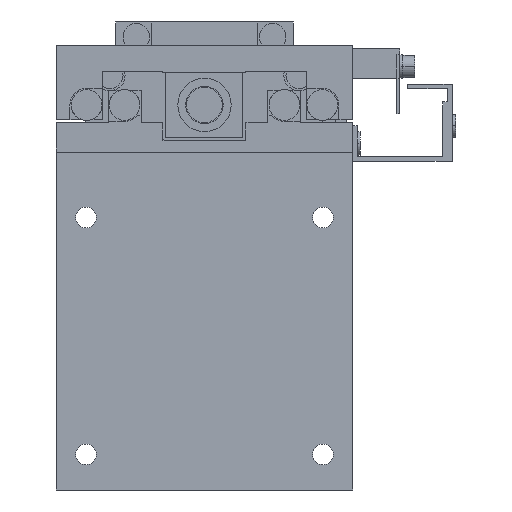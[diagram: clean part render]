
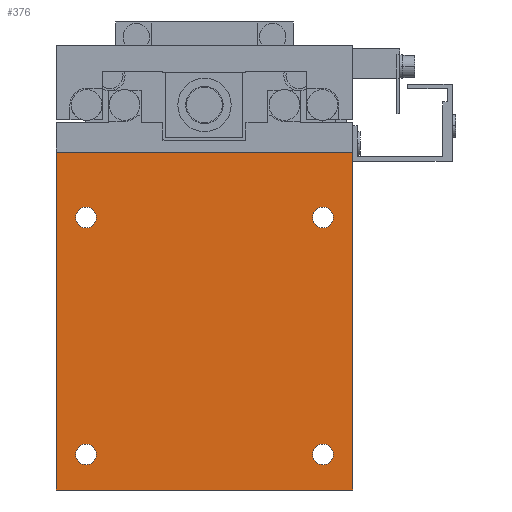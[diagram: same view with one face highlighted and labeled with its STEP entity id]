
A CAD part, front view. The second image highlights one B-rep face of the part: STEP entity #376.
In plain terms, the highlighted planar face has unit normal (0, -1, 0).
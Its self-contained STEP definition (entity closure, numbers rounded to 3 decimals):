
#376=ADVANCED_FACE('',(#1054,#1055,#1056,#1057,#1058),#1059,.F.);
#1054=FACE_BOUND('',#2484,.T.);
#1055=FACE_BOUND('',#2485,.T.);
#1056=FACE_BOUND('',#2486,.T.);
#1057=FACE_BOUND('',#2487,.T.);
#1058=FACE_OUTER_BOUND('',#2488,.T.);
#1059=PLANE('',#2489);
#2484=EDGE_LOOP('',(#3979,#3980));
#2485=EDGE_LOOP('',(#3981,#3982));
#2486=EDGE_LOOP('',(#3983,#3984));
#2487=EDGE_LOOP('',(#3985,#3986));
#2488=EDGE_LOOP('',(#3987,#3988,#3989,#3990));
#2489=AXIS2_PLACEMENT_3D('',#3991,#3992,#3993);
#3979=ORIENTED_EDGE('',*,*,#9296,.F.);
#3980=ORIENTED_EDGE('',*,*,#9247,.F.);
#3981=ORIENTED_EDGE('',*,*,#9297,.F.);
#3982=ORIENTED_EDGE('',*,*,#9279,.F.);
#3983=ORIENTED_EDGE('',*,*,#9298,.F.);
#3984=ORIENTED_EDGE('',*,*,#9287,.F.);
#3985=ORIENTED_EDGE('',*,*,#9299,.F.);
#3986=ORIENTED_EDGE('',*,*,#9283,.F.);
#3987=ORIENTED_EDGE('',*,*,#9300,.T.);
#3988=ORIENTED_EDGE('',*,*,#9301,.F.);
#3989=ORIENTED_EDGE('',*,*,#9302,.F.);
#3990=ORIENTED_EDGE('',*,*,#9293,.T.);
#3991=CARTESIAN_POINT('',(-25.0,0.0,-26.5));
#3992=DIRECTION('',(0.0,1.0,0.0));
#3993=DIRECTION('',(-1.0,0.0,0.0));
#9247=EDGE_CURVE('',#10931,#10927,#10933,.T.);
#9279=EDGE_CURVE('',#10995,#10991,#10997,.T.);
#9283=EDGE_CURVE('',#11003,#10999,#11005,.T.);
#9287=EDGE_CURVE('',#11011,#11007,#11013,.T.);
#9293=EDGE_CURVE('',#11025,#11023,#11026,.T.);
#9296=EDGE_CURVE('',#10927,#10931,#11030,.T.);
#9297=EDGE_CURVE('',#10991,#10995,#11031,.T.);
#9298=EDGE_CURVE('',#11007,#11011,#11032,.T.);
#9299=EDGE_CURVE('',#10999,#11003,#11033,.T.);
#9300=EDGE_CURVE('',#11023,#11034,#11035,.T.);
#9301=EDGE_CURVE('',#11036,#11034,#11037,.T.);
#9302=EDGE_CURVE('',#11025,#11036,#11038,.T.);
#10927=VERTEX_POINT('',#13677);
#10931=VERTEX_POINT('',#13682);
#10933=CIRCLE('',#13685,1.75);
#10991=VERTEX_POINT('',#13757);
#10995=VERTEX_POINT('',#13762);
#10997=CIRCLE('',#13765,1.75);
#10999=VERTEX_POINT('',#13767);
#11003=VERTEX_POINT('',#13772);
#11005=CIRCLE('',#13775,1.75);
#11007=VERTEX_POINT('',#13777);
#11011=VERTEX_POINT('',#13782);
#11013=CIRCLE('',#13785,1.75);
#11023=VERTEX_POINT('',#13797);
#11025=VERTEX_POINT('',#13800);
#11026=LINE('',#13801,#13802);
#11030=CIRCLE('',#13808,1.75);
#11031=CIRCLE('',#13809,1.75);
#11032=CIRCLE('',#13810,1.75);
#11033=CIRCLE('',#13811,1.75);
#11034=VERTEX_POINT('',#13812);
#11035=LINE('',#13813,#13814);
#11036=VERTEX_POINT('',#13815);
#11037=LINE('',#13816,#13817);
#11038=LINE('',#13818,#13819);
#13677=CARTESIAN_POINT('',(20.0,0.0,21.25));
#13682=CARTESIAN_POINT('',(20.0,0.0,17.75));
#13685=AXIS2_PLACEMENT_3D('',#17887,#17888,#17889);
#13757=CARTESIAN_POINT('',(-20.0,0.0,-18.75));
#13762=CARTESIAN_POINT('',(-20.0,0.0,-22.25));
#13765=AXIS2_PLACEMENT_3D('',#17951,#17952,#17953);
#13767=CARTESIAN_POINT('',(-20.0,0.0,21.25));
#13772=CARTESIAN_POINT('',(-20.0,0.0,17.75));
#13775=AXIS2_PLACEMENT_3D('',#17959,#17960,#17961);
#13777=CARTESIAN_POINT('',(20.0,0.0,-18.75));
#13782=CARTESIAN_POINT('',(20.0,0.0,-22.25));
#13785=AXIS2_PLACEMENT_3D('',#17967,#17968,#17969);
#13797=CARTESIAN_POINT('',(25.0,0.0,-26.5));
#13800=CARTESIAN_POINT('',(-25.0,0.0,-26.5));
#13801=CARTESIAN_POINT('',(-25.0,0.0,-26.5));
#13802=VECTOR('',#17979,1000.0);
#13808=AXIS2_PLACEMENT_3D('',#17982,#17983,#17984);
#13809=AXIS2_PLACEMENT_3D('',#17985,#17986,#17987);
#13810=AXIS2_PLACEMENT_3D('',#17988,#17989,#17990);
#13811=AXIS2_PLACEMENT_3D('',#17991,#17992,#17993);
#13812=CARTESIAN_POINT('',(25.0,0.0,30.5));
#13813=CARTESIAN_POINT('',(25.0,0.0,-26.5));
#13814=VECTOR('',#17994,1000.0);
#13815=CARTESIAN_POINT('',(-25.0,0.0,30.5));
#13816=CARTESIAN_POINT('',(-25.0,0.0,30.5));
#13817=VECTOR('',#17995,1000.0);
#13818=CARTESIAN_POINT('',(-25.0,0.0,-26.5));
#13819=VECTOR('',#17996,1000.0);
#17887=CARTESIAN_POINT('',(20.0,0.0,19.5));
#17888=DIRECTION('',(0.0,-1.0,0.0));
#17889=DIRECTION('',(0.0,0.0,1.0));
#17951=CARTESIAN_POINT('',(-20.0,0.0,-20.5));
#17952=DIRECTION('',(0.0,-1.0,0.0));
#17953=DIRECTION('',(0.0,0.0,1.0));
#17959=CARTESIAN_POINT('',(-20.0,0.0,19.5));
#17960=DIRECTION('',(0.0,-1.0,0.0));
#17961=DIRECTION('',(0.0,0.0,1.0));
#17967=CARTESIAN_POINT('',(20.0,0.0,-20.5));
#17968=DIRECTION('',(0.0,-1.0,0.0));
#17969=DIRECTION('',(0.0,0.0,1.0));
#17979=DIRECTION('',(1.0,0.0,0.0));
#17982=CARTESIAN_POINT('',(20.0,0.0,19.5));
#17983=DIRECTION('',(0.0,-1.0,0.0));
#17984=DIRECTION('',(0.0,0.0,1.0));
#17985=CARTESIAN_POINT('',(-20.0,0.0,-20.5));
#17986=DIRECTION('',(0.0,-1.0,0.0));
#17987=DIRECTION('',(0.0,0.0,1.0));
#17988=CARTESIAN_POINT('',(20.0,0.0,-20.5));
#17989=DIRECTION('',(0.0,-1.0,0.0));
#17990=DIRECTION('',(0.0,0.0,1.0));
#17991=CARTESIAN_POINT('',(-20.0,0.0,19.5));
#17992=DIRECTION('',(0.0,-1.0,0.0));
#17993=DIRECTION('',(0.0,0.0,1.0));
#17994=DIRECTION('',(0.0,0.0,1.0));
#17995=DIRECTION('',(1.0,0.0,0.0));
#17996=DIRECTION('',(0.0,0.0,1.0));
